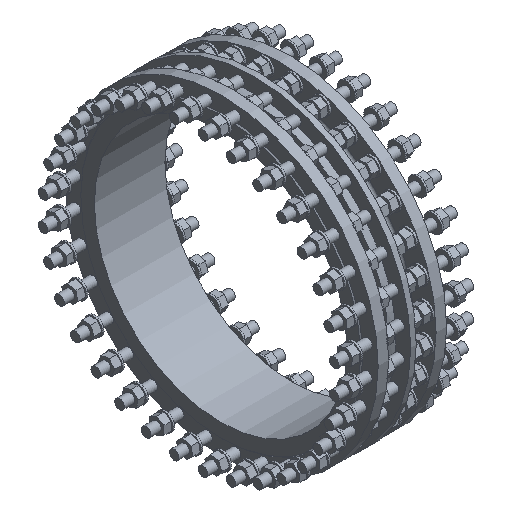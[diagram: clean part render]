
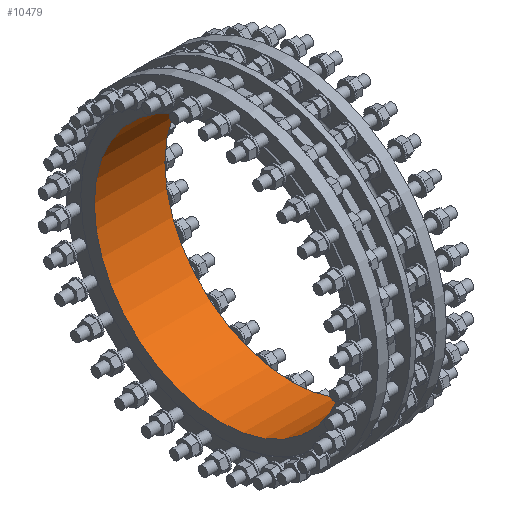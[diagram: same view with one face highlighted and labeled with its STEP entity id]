
A CAD part, isometric view. The second image highlights one B-rep face of the part: STEP entity #10479.
In plain terms, the highlighted cylindrical face has radius 600 mm (diameter 1200 mm), a full revolution.
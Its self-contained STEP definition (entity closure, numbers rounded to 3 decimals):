
#576 = CARTESIAN_POINT ( 'NONE',  ( -30., 0., -600. ) ) ;
#905 = EDGE_CURVE ( 'NONE', #23819, #23819, #25261, .T. ) ;
#2738 = EDGE_LOOP ( 'NONE', ( #10804 ) ) ;
#7406 = VERTEX_POINT ( 'NONE', #22096 ) ;
#10138 = DIRECTION ( 'NONE',  ( -1., 0., 0. ) ) ;
#10479 = ADVANCED_FACE ( 'NONE', ( #14147, #33812 ), #18190, .F. ) ;
#10582 = DIRECTION ( 'NONE',  ( 0., 0., 1. ) ) ;
#10804 = ORIENTED_EDGE ( 'NONE', *, *, #905, .F. ) ;
#14147 = FACE_OUTER_BOUND ( 'NONE', #20934, .T. ) ;
#15156 = ORIENTED_EDGE ( 'NONE', *, *, #39862, .F. ) ;
#15278 = DIRECTION ( 'NONE',  ( 0., 0., -1. ) ) ;
#18190 = CYLINDRICAL_SURFACE ( 'NONE', #19535, 600. ) ;
#19535 = AXIS2_PLACEMENT_3D ( 'NONE', #26508, #41897, #10582 ) ;
#20384 = AXIS2_PLACEMENT_3D ( 'NONE', #26397, #41541, #15278 ) ;
#20934 = EDGE_LOOP ( 'NONE', ( #15156 ) ) ;
#22096 = CARTESIAN_POINT ( 'NONE',  ( 305., 0., 600. ) ) ;
#23819 = VERTEX_POINT ( 'NONE', #576 ) ;
#25261 = CIRCLE ( 'NONE', #20384, 600. ) ;
#26397 = CARTESIAN_POINT ( 'NONE',  ( -30., 0., 0. ) ) ;
#26508 = CARTESIAN_POINT ( 'NONE',  ( 0., 0., 0. ) ) ;
#30540 = AXIS2_PLACEMENT_3D ( 'NONE', #48256, #10138, #36903 ) ;
#33812 = FACE_OUTER_BOUND ( 'NONE', #2738, .T. ) ;
#36903 = DIRECTION ( 'NONE',  ( 0., 0., 1. ) ) ;
#39862 = EDGE_CURVE ( 'NONE', #7406, #7406, #49040, .T. ) ;
#41541 = DIRECTION ( 'NONE',  ( 1., 0., 0. ) ) ;
#41897 = DIRECTION ( 'NONE',  ( -1., 0., 0. ) ) ;
#48256 = CARTESIAN_POINT ( 'NONE',  ( 305., 0., 0. ) ) ;
#49040 = CIRCLE ( 'NONE', #30540, 600. ) ;
